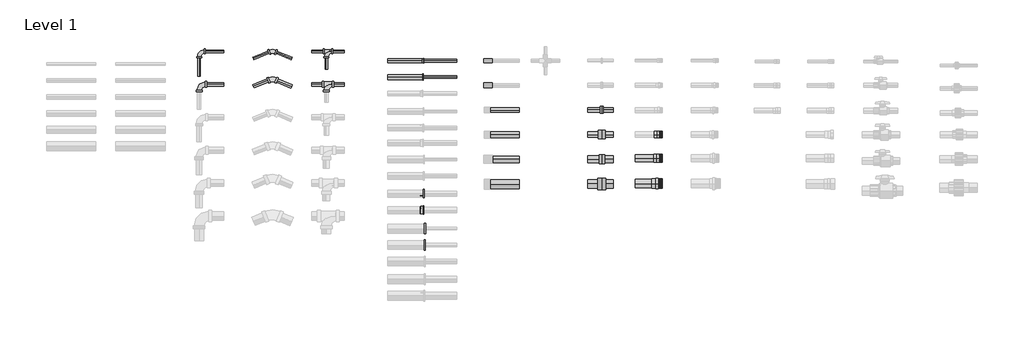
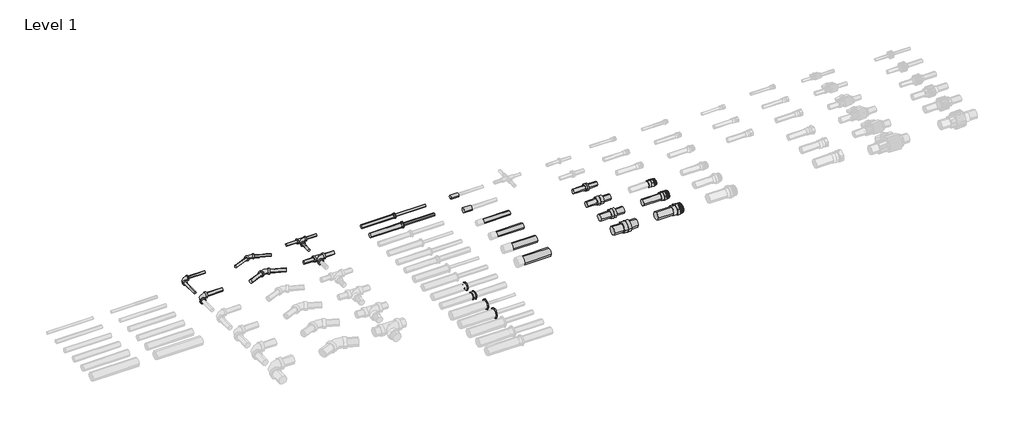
# One storey, part 3 of 5: 30 pipe segments, 18 pipe fittings, 3 valves.
"""IFC4 building model written with IfcOpenShell, lengths in millimetres."""

from ifc_helpers import new_model, si_unit, point, frame, frame_2d, origin, place, context, project, spatial, circle_curve, trimmed, segment, composite_curve, outline, extrude, transform, mapped, element, save
from components import standard_6ea406a4, standard_4a518940, standard_a358d471, standard_514dc241, standard_63efa88c, standard_f1e95f67, standard_e0a6170d, standard_70e3dae1, standard_ea089392, standard_9423981a, standard_cb519760, standard_7ad60289, standard_fa2b7821, standard_9411928c, standard_f4eb1e72, standard_a0c500f7, standard_29754d0d, standard_35c33311, valve_4e4fad23, valve_c2e6266b, valve_f55569fd

model = new_model("IFC4")

# Units and contexts
model_context = context("Model", 3, world=origin())
ifc_project = project(units=[si_unit("LENGTHUNIT", "METRE", prefix="MILLI")], contexts=[model_context])

# Site, building, storey
site = spatial("IfcSite", under=ifc_project)
building = spatial("IfcBuilding", under=site)
storey = spatial("IfcBuildingStorey", under=building, Name="Level 1", Elevation=0.0)

# Pipe fittings
placement = place(None, origin())
standard_shape = standard_6ea406a4(model_context)
element("IfcPipeFitting", 1, ObjectType="Elbow_45_90-Lubrizol-CPVC-FlowGuard_MX : Standard", at=placement, inside=storey, context=model_context, shape_type="MappedRepresentation", body=[
    mapped(standard_shape, transform((-13841.3400203, 7208.9751793, 0.0), x_axis=(-1.0, 0.0, 0.0), y_axis=(0.0, -1.0, 0.0), z_axis=(0.0, 0.0, 1.0))),
])
standard_2_shape = standard_4a518940(model_context)
element("IfcPipeFitting", 2, ObjectType="Elbow_45_90-Lubrizol-CPVC-FlowGuard_MX : Standard", at=placement, inside=storey, context=model_context, shape_type="MappedRepresentation", body=[
    mapped(standard_2_shape, transform((-13841.3400203, 7008.9751793, 0.0), x_axis=(-1.0, 0.0, 0.0), y_axis=(0.0, -1.0, 0.0), z_axis=(0.0, 0.0, 1.0))),
])
standard_3_shape = standard_a358d471(model_context)
element("IfcPipeFitting", 3, ObjectType="Elbow_45_90-Lubrizol-CPVC-FlowGuard_MX : Standard", at=placement, inside=storey, context=model_context, shape_type="MappedRepresentation", body=[
    mapped(standard_3_shape, transform((-13394.7066037, 7214.3191966, 0.0), x_axis=(-0.9205048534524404, 0.39073112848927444, 0.0), y_axis=(-0.3907311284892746, -0.9205048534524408, 0.0), z_axis=(0.0, 0.0, 1.0000000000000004))),
])
standard_4_shape = standard_514dc241(model_context)
element("IfcPipeFitting", 4, ObjectType="Elbow_45_90-Lubrizol-CPVC-FlowGuard_MX : Standard", at=placement, inside=storey, context=model_context, shape_type="MappedRepresentation", body=[
    mapped(standard_4_shape, transform((-13394.7066037, 7044.3191966, 0.0), x_axis=(-0.9205048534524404, 0.39073112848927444, 0.0), y_axis=(-0.3907311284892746, -0.9205048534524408, 0.0), z_axis=(0.0, 0.0, 1.0000000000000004))),
])
standard_5_shape = standard_63efa88c(model_context)
element("IfcPipeFitting", 5, ObjectType="Tee_Lubrizol_CPVC-FlowGuard_MX : Standard", at=placement, inside=storey, context=model_context, shape_type="MappedRepresentation", body=[
    mapped(standard_5_shape, transform((-13067.734073, 7208.9751793, 0.0), x_axis=(-1.0, 0.0, 0.0), y_axis=(0.0, 1.0, 0.0), z_axis=(0.0, 0.0, -1.0))),
])
standard_6_shape = standard_f1e95f67(model_context)
element("IfcPipeFitting", 6, ObjectType="Tee_Lubrizol_CPVC-FlowGuard_MX : Standard", at=placement, inside=storey, context=model_context, shape_type="MappedRepresentation", body=[
    mapped(standard_6_shape, transform((-13067.734073, 7008.9751793, 0.0), x_axis=(-1.0, 0.0, 0.0), y_axis=(0.0, 1.0, 0.0), z_axis=(0.0, 0.0, -1.0))),
])
standard_7_shape = standard_e0a6170d(model_context)
element("IfcPipeFitting", 7, ObjectType="Cap_Lubrizol_CPVC_FlowGuard_MX : Standard", at=placement, inside=storey, context=model_context, shape_type="MappedRepresentation", body=[
    mapped(standard_7_shape, transform((-12060.9977666, 7152.702325, 0.0), x_axis=(-1.0, 0.0, 0.0), y_axis=(0.0, -1.0, 0.0), z_axis=(0.0, 0.0, 1.0))),
])
standard_8_shape = standard_70e3dae1(model_context)
element("IfcPipeFitting", 8, ObjectType="Cap_Lubrizol_CPVC_FlowGuard_MX : Standard", at=placement, inside=storey, context=model_context, shape_type="MappedRepresentation", body=[
    mapped(standard_8_shape, transform((-12060.9977666, 7002.702325, 0.0), x_axis=(-1.0, 0.0, 0.0), y_axis=(0.0, -1.0, 0.0), z_axis=(0.0, 0.0, 1.0))),
])
standard_9_shape = standard_ea089392(model_context)
element("IfcPipeFitting", 9, ObjectType="Reducion Bushing_Lubrizol_CPVC_FlowGuard_MX : Standard", at=placement, inside=storey, context=model_context, shape_type="MappedRepresentation", body=[
    mapped(standard_9_shape, transform((-12486.0964232, 7152.702325, 0.0), x_axis=(1.0, 0.0, 0.0), y_axis=(0.0, 1.0, 0.0), z_axis=(0.0, 0.0, 1.0))),
])
standard_10_shape = standard_9423981a(model_context)
element("IfcPipeFitting", 10, ObjectType="Reducion Bushing_Lubrizol_CPVC_FlowGuard_MX : Standard", at=placement, inside=storey, context=model_context, shape_type="MappedRepresentation", body=[
    mapped(standard_10_shape, transform((-12495.1344232, 7052.702325, 0.0), x_axis=(1.0, 0.0, 0.0), y_axis=(0.0, 1.0, 0.0), z_axis=(0.0, 0.0, 1.0))),
])
standard_11_shape = standard_cb519760(model_context)
element("IfcPipeFitting", 11, ObjectType="Reducion Bushing_Lubrizol_CPVC_FlowGuard_MX : Standard", at=placement, inside=storey, context=model_context, shape_type="MappedRepresentation", body=[
    mapped(standard_11_shape, transform((-12496.6944232, 6344.752325, 0.0), x_axis=(1.0, 0.0, 0.0), y_axis=(0.0, 1.0, 0.0), z_axis=(0.0, 0.0, 1.0))),
])
standard_12_shape = standard_7ad60289(model_context)
element("IfcPipeFitting", 12, ObjectType="Reducion Bushing_Lubrizol_CPVC_FlowGuard_MX : Standard", at=placement, inside=storey, context=model_context, shape_type="MappedRepresentation", body=[
    mapped(standard_12_shape, transform((-12497.6044232, 6244.752325, 0.0), x_axis=(1.0, 0.0, 0.0), y_axis=(0.0, 1.0, 0.0), z_axis=(0.0, 0.0, 1.0))),
])
standard_13_shape = standard_fa2b7821(model_context)
element("IfcPipeFitting", 13, ObjectType="Reducion Bushing_Lubrizol_CPVC_FlowGuard_MX : Standard", at=placement, inside=storey, context=model_context, shape_type="MappedRepresentation", body=[
    mapped(standard_13_shape, transform((-12495.1344232, 6132.702325, 0.0), x_axis=(1.0, 0.0, 0.0), y_axis=(0.0, 1.0, 0.0), z_axis=(0.0, 0.0, 1.0))),
])
standard_14_shape = standard_9411928c(model_context)
element("IfcPipeFitting", 14, ObjectType="Reducion Bushing_Lubrizol_CPVC_FlowGuard_MX : Standard", at=placement, inside=storey, context=model_context, shape_type="MappedRepresentation", body=[
    mapped(standard_14_shape, transform((-12495.9144232, 6032.702325, 0.0), x_axis=(1.0, 0.0, 0.0), y_axis=(0.0, 1.0, 0.0), z_axis=(0.0, 0.0, 1.0))),
])
standard_15_shape = standard_f4eb1e72(model_context)
element("IfcPipeFitting", 15, ObjectType="Cople_Lubrizol_CPVC_FlowGuard_MX : Standard", at=placement, inside=storey, context=model_context, shape_type="MappedRepresentation", body=[
    mapped(standard_15_shape, transform((-11393.7080901, 6703.8269662, 0.0), x_axis=(1.0, 0.0, 0.0), y_axis=(0.0, 1.0, 0.0), z_axis=(0.0, 0.0, 1.0))),
])
standard_16_shape = standard_a0c500f7(model_context)
element("IfcPipeFitting", 16, ObjectType="Cople_Lubrizol_CPVC_FlowGuard_MX : Standard", at=placement, inside=storey, context=model_context, shape_type="MappedRepresentation", body=[
    mapped(standard_16_shape, transform((-11393.7080901, 6853.8269662, 0.0), x_axis=(1.0, 0.0, 0.0), y_axis=(0.0, 1.0, 0.0), z_axis=(0.0, 0.0, 1.0))),
])
standard_17_shape = standard_29754d0d(model_context)
element("IfcPipeFitting", 17, ObjectType="Cople_Lubrizol_CPVC_FlowGuard_MX : Standard", at=placement, inside=storey, context=model_context, shape_type="MappedRepresentation", body=[
    mapped(standard_17_shape, transform((-11393.7080901, 6553.8269662, 0.0), x_axis=(1.0, 0.0, 0.0), y_axis=(0.0, 1.0, 0.0), z_axis=(0.0, 0.0, 1.0))),
])
standard_18_shape = standard_35c33311(model_context)
element("IfcPipeFitting", 18, ObjectType="Cople_Lubrizol_CPVC_FlowGuard_MX : Standard", at=placement, inside=storey, context=model_context, shape_type="MappedRepresentation", body=[
    mapped(standard_18_shape, transform((-11393.7080901, 6403.8269662, 0.0), x_axis=(1.0, 0.0, 0.0), y_axis=(0.0, 1.0, 0.0), z_axis=(0.0, 0.0, 1.0))),
])

# Pipe segments
element("IfcPipeSegment", 19, ObjectType="Lubrizol_Flow Guard SDR 13.5", at=placement, inside=storey, context=model_context, shape_type="SweptSolid", body=[
    extrude(outline(composite_curve([segment(trimmed(circle_curve(frame_2d((7152.702325, 0.0)), 7.95), [point((7144.752325, 0.0))], [point((7152.702325, 7.95))], False, "CARTESIAN"), True, "CONTINUOUS"), segment(trimmed(circle_curve(frame_2d((7152.702325, 0.0)), 7.95), [point((7152.702325, 7.95))], [point((7160.652325, 0.0))], False, "CARTESIAN"), True, "CONTINUOUS"), segment(trimmed(circle_curve(frame_2d((7152.702325, 0.0)), 7.95), [point((7160.652325, 0.0))], [point((7152.702325, -7.95))], False, "CARTESIAN"), True, "CONTINUOUS"), segment(trimmed(circle_curve(frame_2d((7152.702325, 0.0)), 7.95), [point((7152.702325, -7.95))], [point((7144.752325, 0.0))], False, "CARTESIAN"), True, "CONTINUOUS")], self_intersect=False)), frame((-12484.4714232, 0.0, 0.0), z_axis=(1.0, 0.0, 0.0), x_axis=(0.0, 1.0, 0.0)), (0.0, 0.0, 1.0), 209.5730937),
])
element("IfcPipeSegment", 20, ObjectType="Lubrizol_Flow Guard SDR 13.5", at=placement, inside=storey, context=model_context, shape_type="SweptSolid", body=[
    extrude(outline(composite_curve([segment(trimmed(circle_curve(frame_2d((7152.702325, 0.0)), 11.1), [point((7141.602325, 0.0))], [point((7152.702325, 11.1))], False, "CARTESIAN"), True, "CONTINUOUS"), segment(trimmed(circle_curve(frame_2d((7152.702325, 0.0)), 11.1), [point((7152.702325, 11.1))], [point((7163.802325, 0.0))], False, "CARTESIAN"), True, "CONTINUOUS"), segment(trimmed(circle_curve(frame_2d((7152.702325, 0.0)), 11.1), [point((7163.802325, 0.0))], [point((7152.702325, -11.1))], False, "CARTESIAN"), True, "CONTINUOUS"), segment(trimmed(circle_curve(frame_2d((7152.702325, 0.0)), 11.1), [point((7152.702325, -11.1))], [point((7141.602325, 0.0))], False, "CARTESIAN"), True, "CONTINUOUS")], self_intersect=False)), frame((-12695.1344232, 0.0, 0.0), z_axis=(1.0, 0.0, 0.0), x_axis=(0.0, 1.0, 0.0)), (0.0, 0.0, 1.0), 218.076),
])
element("IfcPipeSegment", 21, ObjectType="Lubrizol_Flow Guard SDR 13.5", at=placement, inside=storey, context=model_context, shape_type="SweptSolid", body=[
    extrude(outline(composite_curve([segment(trimmed(circle_curve(frame_2d((7052.702325, 0.0)), 7.95), [point((7044.752325, 0.0))], [point((7052.702325, 7.95))], False, "CARTESIAN"), True, "CONTINUOUS"), segment(trimmed(circle_curve(frame_2d((7052.702325, 0.0)), 7.95), [point((7052.702325, 7.95))], [point((7060.652325, 0.0))], False, "CARTESIAN"), True, "CONTINUOUS"), segment(trimmed(circle_curve(frame_2d((7052.702325, 0.0)), 7.95), [point((7060.652325, 0.0))], [point((7052.702325, -7.95))], False, "CARTESIAN"), True, "CONTINUOUS"), segment(trimmed(circle_curve(frame_2d((7052.702325, 0.0)), 7.95), [point((7052.702325, -7.95))], [point((7044.752325, 0.0))], False, "CARTESIAN"), True, "CONTINUOUS")], self_intersect=False)), frame((-12493.5094232, 0.0, 0.0), z_axis=(1.0, 0.0, 0.0), x_axis=(0.0, 1.0, 0.0)), (0.0, 0.0, 1.0), 218.6110937),
])
element("IfcPipeSegment", 22, ObjectType="Lubrizol_Flow Guard SDR 13.5", at=placement, inside=storey, context=model_context, shape_type="SweptSolid", body=[
    extrude(outline(composite_curve([segment(trimmed(circle_curve(frame_2d((7052.702325, 0.0)), 14.3), [point((7038.402325, 0.0))], [point((7052.702325, 14.3))], False, "CARTESIAN"), True, "CONTINUOUS"), segment(trimmed(circle_curve(frame_2d((7052.702325, 0.0)), 14.3), [point((7052.702325, 14.3))], [point((7067.002325, 0.0))], False, "CARTESIAN"), True, "CONTINUOUS"), segment(trimmed(circle_curve(frame_2d((7052.702325, 0.0)), 14.3), [point((7067.002325, 0.0))], [point((7052.702325, -14.3))], False, "CARTESIAN"), True, "CONTINUOUS"), segment(trimmed(circle_curve(frame_2d((7052.702325, 0.0)), 14.3), [point((7052.702325, -14.3))], [point((7038.402325, 0.0))], False, "CARTESIAN"), True, "CONTINUOUS")], self_intersect=False)), frame((-12695.1344232, 0.0, 0.0), z_axis=(1.0, 0.0, 0.0), x_axis=(0.0, 1.0, 0.0)), (0.0, 0.0, 1.0), 211.888),
])
element("IfcPipeSegment", 23, ObjectType="Lubrizol_Flow Guard SDR 13.5", at=placement, inside=storey, context=model_context, shape_type="SweptSolid", body=[
    extrude(outline(composite_curve([segment(trimmed(circle_curve(frame_2d((0.0, -13841.3400203)), 7.95), [point((0.0, -13833.3900203))], [point((7.95, -13841.3400203))], False, "CARTESIAN"), True, "CONTINUOUS"), segment(trimmed(circle_curve(frame_2d((0.0, -13841.3400203)), 7.95), [point((7.95, -13841.3400203))], [point((0.0, -13849.2900203))], False, "CARTESIAN"), True, "CONTINUOUS"), segment(trimmed(circle_curve(frame_2d((0.0, -13841.3400203)), 7.95), [point((0.0, -13849.2900203))], [point((-7.95, -13841.3400203))], False, "CARTESIAN"), True, "CONTINUOUS"), segment(trimmed(circle_curve(frame_2d((0.0, -13841.3400203)), 7.95), [point((-7.95, -13841.3400203))], [point((0.0, -13833.3900203))], False, "CARTESIAN"), True, "CONTINUOUS")], self_intersect=False)), frame((0.0, 7058.9751793, 0.0), z_axis=(0.0, 1.0, 0.0), x_axis=(0.0, 0.0, 1.0)), (0.0, 0.0, 1.0), 111.3059375),
])
element("IfcPipeSegment", 24, ObjectType="Lubrizol_Flow Guard SDR 13.5", at=placement, inside=storey, context=model_context, shape_type="SweptSolid", body=[
    extrude(outline(composite_curve([segment(trimmed(circle_curve(frame_2d((7208.9751793, 0.0)), 7.95), [point((7201.0251793, 0.0))], [point((7208.9751793, 7.95))], False, "CARTESIAN"), True, "CONTINUOUS"), segment(trimmed(circle_curve(frame_2d((7208.9751793, 0.0)), 7.95), [point((7208.9751793, 7.95))], [point((7216.9251793, 0.0))], False, "CARTESIAN"), True, "CONTINUOUS"), segment(trimmed(circle_curve(frame_2d((7208.9751793, 0.0)), 7.95), [point((7216.9251793, 0.0))], [point((7208.9751793, -7.95))], False, "CARTESIAN"), True, "CONTINUOUS"), segment(trimmed(circle_curve(frame_2d((7208.9751793, 0.0)), 7.95), [point((7208.9751793, -7.95))], [point((7201.0251793, 0.0))], False, "CARTESIAN"), True, "CONTINUOUS")], self_intersect=False)), frame((-13802.6459578, 0.0, 0.0), z_axis=(1.0, 0.0, 0.0), x_axis=(0.0, 1.0, 0.0)), (0.0, 0.0, 1.0), 111.3059375),
])
element("IfcPipeSegment", 25, ObjectType="Lubrizol_Flow Guard SDR 13.5", at=placement, inside=storey, context=model_context, shape_type="SweptSolid", body=[
    extrude(outline(composite_curve([segment(trimmed(circle_curve(frame_2d((7008.9751793, 0.0)), 11.1), [point((6997.8751793, 0.0))], [point((7008.9751793, 11.1))], False, "CARTESIAN"), True, "CONTINUOUS"), segment(trimmed(circle_curve(frame_2d((7008.9751793, 0.0)), 11.1), [point((7008.9751793, 11.1))], [point((7020.0751793, 0.0))], False, "CARTESIAN"), True, "CONTINUOUS"), segment(trimmed(circle_curve(frame_2d((7008.9751793, 0.0)), 11.1), [point((7020.0751793, 0.0))], [point((7008.9751793, -11.1))], False, "CARTESIAN"), True, "CONTINUOUS"), segment(trimmed(circle_curve(frame_2d((7008.9751793, 0.0)), 11.1), [point((7008.9751793, -11.1))], [point((6997.8751793, 0.0))], False, "CARTESIAN"), True, "CONTINUOUS")], self_intersect=False)), frame((-13795.6859578, 0.0, 0.0), z_axis=(1.0, 0.0, 0.0), x_axis=(0.0, 1.0, 0.0)), (0.0, 0.0, 1.0), 104.3459375),
])
element("IfcPipeSegment", 26, ObjectType="Lubrizol_Flow Guard SDR 13.5", at=placement, inside=storey, context=model_context, shape_type="SweptSolid", body=[
    extrude(outline(composite_curve([segment(trimmed(circle_curve(frame_2d((0.0, 7.95)), 7.95), [point((7.9500001, 7.95))], [point((0.0, 0.0))], False, "CARTESIAN"), True, "CONTINUOUS"), segment(trimmed(circle_curve(frame_2d((0.0, 7.95)), 7.95), [point((0.0, 0.0))], [point((-7.95, 7.95))], False, "CARTESIAN"), True, "CONTINUOUS"), segment(trimmed(circle_curve(frame_2d((0.0, 7.95)), 7.95), [point((-7.95, 7.95))], [point((0.0, 15.9))], False, "CARTESIAN"), True, "CONTINUOUS"), segment(trimmed(circle_curve(frame_2d((0.0, 7.95)), 7.95), [point((0.0, 15.9))], [point((7.9500001, 7.95))], False, "CARTESIAN"), True, "CONTINUOUS")], self_intersect=False)), frame((-13511.2092833, 7167.2490587, 7.95), z_axis=(0.9271838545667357, 0.37460659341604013, 0.0), x_axis=(0.37460659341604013, -0.9271838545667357, 0.0)), (0.0, 0.0, 1.0), 100.0),
])
element("IfcPipeSegment", 27, ObjectType="Lubrizol_Flow Guard SDR 13.5", at=placement, inside=storey, context=model_context, shape_type="SweptSolid", body=[
    extrude(outline(composite_curve([segment(trimmed(circle_curve(frame_2d((0.0, -7.95)), 7.95), [point((-7.95, -7.95))], [point((0.0, 0.0))], False, "CARTESIAN"), True, "CONTINUOUS"), segment(trimmed(circle_curve(frame_2d((0.0, -7.95)), 7.95), [point((0.0, 0.0))], [point((7.9499999, -7.95))], False, "CARTESIAN"), True, "CONTINUOUS"), segment(trimmed(circle_curve(frame_2d((0.0, -7.95)), 7.95), [point((7.9499999, -7.95))], [point((0.0, -15.9))], False, "CARTESIAN"), True, "CONTINUOUS"), segment(trimmed(circle_curve(frame_2d((0.0, -7.95)), 7.95), [point((0.0, -15.9))], [point((-7.95, -7.95))], False, "CARTESIAN"), True, "CONTINUOUS")], self_intersect=False)), frame((-13279.0431553, 7165.2229756, -7.95), z_axis=(-0.9205048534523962, 0.390731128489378, 0.0), x_axis=(0.390731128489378, 0.9205048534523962, 0.0)), (0.0, 0.0, 1.0), 100.0),
])
element("IfcPipeSegment", 28, ObjectType="Lubrizol_Flow Guard SDR 13.5", at=placement, inside=storey, context=model_context, shape_type="SweptSolid", body=[
    extrude(outline(composite_curve([segment(trimmed(circle_curve(frame_2d((0.0, 11.1)), 11.1), [point((11.1, 11.1))], [point((0.0, 0.0))], False, "CARTESIAN"), True, "CONTINUOUS"), segment(trimmed(circle_curve(frame_2d((0.0, 11.1)), 11.1), [point((0.0, 0.0))], [point((-11.0999999, 11.1))], False, "CARTESIAN"), True, "CONTINUOUS"), segment(trimmed(circle_curve(frame_2d((0.0, 11.1)), 11.1), [point((-11.0999999, 11.1))], [point((0.0, 22.2))], False, "CARTESIAN"), True, "CONTINUOUS"), segment(trimmed(circle_curve(frame_2d((0.0, 11.1)), 11.1), [point((0.0, 22.2))], [point((11.1, 11.1))], False, "CARTESIAN"), True, "CONTINUOUS")], self_intersect=False)), frame((-13511.2092833, 6997.2490587, 11.1), z_axis=(0.9271838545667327, 0.37460659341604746, 0.0), x_axis=(0.37460659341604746, -0.9271838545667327, 0.0)), (0.0, 0.0, 1.0), 94.48),
])
element("IfcPipeSegment", 29, ObjectType="Lubrizol_Flow Guard SDR 13.5", at=placement, inside=storey, context=model_context, shape_type="SweptSolid", body=[
    extrude(outline(composite_curve([segment(trimmed(circle_curve(frame_2d((0.0, -11.1)), 11.1), [point((-11.1, -11.1))], [point((0.0, 0.0))], False, "CARTESIAN"), True, "CONTINUOUS"), segment(trimmed(circle_curve(frame_2d((0.0, -11.1)), 11.1), [point((0.0, 0.0))], [point((11.0999999, -11.1))], False, "CARTESIAN"), True, "CONTINUOUS"), segment(trimmed(circle_curve(frame_2d((0.0, -11.1)), 11.1), [point((11.0999999, -11.1))], [point((0.0, -22.2))], False, "CARTESIAN"), True, "CONTINUOUS"), segment(trimmed(circle_curve(frame_2d((0.0, -11.1)), 11.1), [point((0.0, -22.2))], [point((-11.1, -11.1))], False, "CARTESIAN"), True, "CONTINUOUS")], self_intersect=False)), frame((-13279.0431553, 6995.2229756, -11.1), z_axis=(-0.9205048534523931, 0.3907311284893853, 0.0), x_axis=(0.3907311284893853, 0.9205048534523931, 0.0)), (0.0, 0.0, 1.0), 94.48),
])
element("IfcPipeSegment", 30, ObjectType="Lubrizol_Flow Guard SDR 13.5", at=placement, inside=storey, context=model_context, shape_type="SweptSolid", body=[
    extrude(outline(composite_curve([segment(trimmed(circle_curve(frame_2d((0.0, -13067.734073)), 7.95), [point((0.0, -13075.684073))], [point((-7.95, -13067.734073))], False, "CARTESIAN"), True, "CONTINUOUS"), segment(trimmed(circle_curve(frame_2d((0.0, -13067.734073)), 7.95), [point((-7.95, -13067.734073))], [point((0.0, -13059.784073))], False, "CARTESIAN"), True, "CONTINUOUS"), segment(trimmed(circle_curve(frame_2d((0.0, -13067.734073)), 7.95), [point((0.0, -13059.784073))], [point((7.95, -13067.734073))], False, "CARTESIAN"), True, "CONTINUOUS"), segment(trimmed(circle_curve(frame_2d((0.0, -13067.734073)), 7.95), [point((7.95, -13067.734073))], [point((0.0, -13075.684073))], False, "CARTESIAN"), True, "CONTINUOUS")], self_intersect=False)), frame((0.0, 7100.2811168, 0.0), z_axis=(0.0, 1.0, 0.0), x_axis=(0.0, 0.0, 1.0)), (0.0, 0.0, 1.0), 70.0),
])
element("IfcPipeSegment", 31, ObjectType="Lubrizol_Flow Guard SDR 13.5", at=placement, inside=storey, context=model_context, shape_type="SweptSolid", body=[
    extrude(outline(composite_curve([segment(trimmed(circle_curve(frame_2d((7208.9751793, 0.0)), 7.95), [point((7201.0251793, 0.0))], [point((7208.9751793, 7.95))], False, "CARTESIAN"), True, "CONTINUOUS"), segment(trimmed(circle_curve(frame_2d((7208.9751793, 0.0)), 7.95), [point((7208.9751793, 7.95))], [point((7216.9251793, 0.0))], False, "CARTESIAN"), True, "CONTINUOUS"), segment(trimmed(circle_curve(frame_2d((7208.9751793, 0.0)), 7.95), [point((7216.9251793, 0.0))], [point((7208.9751793, -7.95))], False, "CARTESIAN"), True, "CONTINUOUS"), segment(trimmed(circle_curve(frame_2d((7208.9751793, 0.0)), 7.95), [point((7208.9751793, -7.95))], [point((7201.0251793, 0.0))], False, "CARTESIAN"), True, "CONTINUOUS")], self_intersect=False)), frame((-13029.0400105, 0.0, 0.0), z_axis=(1.0, 0.0, 0.0), x_axis=(0.0, 1.0, 0.0)), (0.0, 0.0, 1.0), 70.0),
])
element("IfcPipeSegment", 32, ObjectType="Lubrizol_Flow Guard SDR 13.5", at=placement, inside=storey, context=model_context, shape_type="SweptSolid", body=[
    extrude(outline(composite_curve([segment(trimmed(circle_curve(frame_2d((7208.9751793, 0.0)), 7.95), [point((7201.0251793, 0.0))], [point((7208.9751793, 7.95))], False, "CARTESIAN"), True, "CONTINUOUS"), segment(trimmed(circle_curve(frame_2d((7208.9751793, 0.0)), 7.95), [point((7208.9751793, 7.95))], [point((7216.9251793, 0.0))], False, "CARTESIAN"), True, "CONTINUOUS"), segment(trimmed(circle_curve(frame_2d((7208.9751793, 0.0)), 7.95), [point((7216.9251793, 0.0))], [point((7208.9751793, -7.95))], False, "CARTESIAN"), True, "CONTINUOUS"), segment(trimmed(circle_curve(frame_2d((7208.9751793, 0.0)), 7.95), [point((7208.9751793, -7.95))], [point((7201.0251793, 0.0))], False, "CARTESIAN"), True, "CONTINUOUS")], self_intersect=False)), frame((-13155.749698, 0.0, 0.0), z_axis=(1.0, 0.0, 0.0), x_axis=(0.0, 1.0, 0.0)), (0.0, 0.0, 1.0), 70.0),
])
element("IfcPipeSegment", 33, ObjectType="Lubrizol_Flow Guard SDR 13.5", at=placement, inside=storey, context=model_context, shape_type="SweptSolid", body=[
    extrude(outline(composite_curve([segment(trimmed(circle_curve(frame_2d((7008.9751793, 0.0)), 11.1), [point((6997.8751793, 0.0))], [point((7008.9751793, 11.1))], False, "CARTESIAN"), True, "CONTINUOUS"), segment(trimmed(circle_curve(frame_2d((7008.9751793, 0.0)), 11.1), [point((7008.9751793, 11.1))], [point((7020.0751793, 0.0))], False, "CARTESIAN"), True, "CONTINUOUS"), segment(trimmed(circle_curve(frame_2d((7008.9751793, 0.0)), 11.1), [point((7020.0751793, 0.0))], [point((7008.9751793, -11.1))], False, "CARTESIAN"), True, "CONTINUOUS"), segment(trimmed(circle_curve(frame_2d((7008.9751793, 0.0)), 11.1), [point((7008.9751793, -11.1))], [point((6997.8751793, 0.0))], False, "CARTESIAN"), True, "CONTINUOUS")], self_intersect=False)), frame((-13022.0800105, 0.0, 0.0), z_axis=(1.0, 0.0, 0.0), x_axis=(0.0, 1.0, 0.0)), (0.0, 0.0, 1.0), 63.04),
])
element("IfcPipeSegment", 34, ObjectType="Lubrizol_Flow Guard SDR 13.5", at=placement, inside=storey, context=model_context, shape_type="SweptSolid", body=[
    extrude(outline(composite_curve([segment(trimmed(circle_curve(frame_2d((7008.9751793, 0.0)), 11.1), [point((6997.8751793, 0.0))], [point((7008.9751793, 11.1))], False, "CARTESIAN"), True, "CONTINUOUS"), segment(trimmed(circle_curve(frame_2d((7008.9751793, 0.0)), 11.1), [point((7008.9751793, 11.1))], [point((7020.0751793, 0.0))], False, "CARTESIAN"), True, "CONTINUOUS"), segment(trimmed(circle_curve(frame_2d((7008.9751793, 0.0)), 11.1), [point((7020.0751793, 0.0))], [point((7008.9751793, -11.1))], False, "CARTESIAN"), True, "CONTINUOUS"), segment(trimmed(circle_curve(frame_2d((7008.9751793, 0.0)), 11.1), [point((7008.9751793, -11.1))], [point((6997.8751793, 0.0))], False, "CARTESIAN"), True, "CONTINUOUS")], self_intersect=False)), frame((-13155.749698, 0.0, 0.0), z_axis=(1.0, 0.0, 0.0), x_axis=(0.0, 1.0, 0.0)), (0.0, 0.0, 1.0), 63.7),
])
element("IfcPipeSegment", 35, ObjectType="Lubrizol_Flow Guard SDR 13.5", at=placement, inside=storey, context=model_context, shape_type="SweptSolid", body=[
    extrude(outline(composite_curve([segment(trimmed(circle_curve(frame_2d((6852.702325, 0.0)), 14.3), [point((6838.402325, 0.0))], [point((6852.702325, 14.3))], False, "CARTESIAN"), True, "CONTINUOUS"), segment(trimmed(circle_curve(frame_2d((6852.702325, 0.0)), 14.3), [point((6852.702325, 14.3))], [point((6867.002325, 0.0))], False, "CARTESIAN"), True, "CONTINUOUS"), segment(trimmed(circle_curve(frame_2d((6852.702325, 0.0)), 14.3), [point((6867.002325, 0.0))], [point((6852.702325, -14.3))], False, "CARTESIAN"), True, "CONTINUOUS"), segment(trimmed(circle_curve(frame_2d((6852.702325, 0.0)), 14.3), [point((6852.702325, -14.3))], [point((6838.402325, 0.0))], False, "CARTESIAN"), True, "CONTINUOUS")], self_intersect=False)), frame((-12070.9977666, 0.0, 0.0), z_axis=(1.0, 0.0, 0.0), x_axis=(0.0, 1.0, 0.0)), (0.0, 0.0, 1.0), 175.0),
])
element("IfcPipeSegment", 36, ObjectType="Lubrizol_Flow Guard SDR 13.5", at=placement, inside=storey, context=model_context, shape_type="SweptSolid", body=[
    extrude(outline(composite_curve([segment(trimmed(circle_curve(frame_2d((6702.702325, 0.0)), 17.45), [point((6685.252325, 0.0))], [point((6702.702325, 17.45))], False, "CARTESIAN"), True, "CONTINUOUS"), segment(trimmed(circle_curve(frame_2d((6702.702325, 0.0)), 17.45), [point((6702.702325, 17.45))], [point((6720.152325, 0.0))], False, "CARTESIAN"), True, "CONTINUOUS"), segment(trimmed(circle_curve(frame_2d((6702.702325, 0.0)), 17.45), [point((6720.152325, 0.0))], [point((6702.702325, -17.45))], False, "CARTESIAN"), True, "CONTINUOUS"), segment(trimmed(circle_curve(frame_2d((6702.702325, 0.0)), 17.45), [point((6702.702325, -17.45))], [point((6685.252325, 0.0))], False, "CARTESIAN"), True, "CONTINUOUS")], self_intersect=False)), frame((-12070.9977666, 0.0, 0.0), z_axis=(1.0, 0.0, 0.0), x_axis=(0.0, 1.0, 0.0)), (0.0, 0.0, 1.0), 175.0),
])
element("IfcPipeSegment", 37, ObjectType="Lubrizol_Flow Guard SDR 13.5", at=placement, inside=storey, context=model_context, shape_type="SweptSolid", body=[
    extrude(outline(composite_curve([segment(trimmed(circle_curve(frame_2d((6552.702325, 0.0)), 20.65), [point((6532.052325, 0.0))], [point((6552.702325, 20.65))], False, "CARTESIAN"), True, "CONTINUOUS"), segment(trimmed(circle_curve(frame_2d((6552.702325, 0.0)), 20.65), [point((6552.702325, 20.65))], [point((6573.352325, 0.0))], False, "CARTESIAN"), True, "CONTINUOUS"), segment(trimmed(circle_curve(frame_2d((6552.702325, 0.0)), 20.65), [point((6573.352325, 0.0))], [point((6552.702325, -20.65))], False, "CARTESIAN"), True, "CONTINUOUS"), segment(trimmed(circle_curve(frame_2d((6552.702325, 0.0)), 20.65), [point((6552.702325, -20.65))], [point((6532.052325, 0.0))], False, "CARTESIAN"), True, "CONTINUOUS")], self_intersect=False)), frame((-12055.9977666, 0.0, 0.0), z_axis=(1.0, 0.0, 0.0), x_axis=(0.0, 1.0, 0.0)), (0.0, 0.0, 1.0), 160.0),
])
element("IfcPipeSegment", 38, ObjectType="Lubrizol_Flow Guard SDR 13.5", at=placement, inside=storey, context=model_context, shape_type="SweptSolid", body=[
    extrude(outline(composite_curve([segment(trimmed(circle_curve(frame_2d((6402.702325, 0.0)), 27.0), [point((6375.702325, 0.0))], [point((6402.702325, 27.0))], False, "CARTESIAN"), True, "CONTINUOUS"), segment(trimmed(circle_curve(frame_2d((6402.702325, 0.0)), 27.0), [point((6402.702325, 27.0))], [point((6429.702325, 0.0))], False, "CARTESIAN"), True, "CONTINUOUS"), segment(trimmed(circle_curve(frame_2d((6402.702325, 0.0)), 27.0), [point((6429.702325, 0.0))], [point((6402.702325, -27.0))], False, "CARTESIAN"), True, "CONTINUOUS"), segment(trimmed(circle_curve(frame_2d((6402.702325, 0.0)), 27.0), [point((6402.702325, -27.0))], [point((6375.702325, 0.0))], False, "CARTESIAN"), True, "CONTINUOUS")], self_intersect=False)), frame((-12070.9977666, 0.0, 0.0), z_axis=(1.0, 0.0, 0.0), x_axis=(0.0, 1.0, 0.0)), (0.0, 0.0, 1.0), 175.0),
])
element("IfcPipeSegment", 39, ObjectType="Lubrizol_Flow Guard SDR 13.5", at=placement, inside=storey, context=model_context, shape_type="SweptSolid", body=[
    extrude(outline(composite_curve([segment(trimmed(circle_curve(frame_2d((6853.8269662, 0.0)), 14.3), [point((6839.5269662, 0.0))], [point((6853.8269662, 14.3))], False, "CARTESIAN"), True, "CONTINUOUS"), segment(trimmed(circle_curve(frame_2d((6853.8269662, 0.0)), 14.3), [point((6853.8269662, 14.3))], [point((6868.1269662, 0.0))], False, "CARTESIAN"), True, "CONTINUOUS"), segment(trimmed(circle_curve(frame_2d((6853.8269662, 0.0)), 14.3), [point((6868.1269662, 0.0))], [point((6853.8269662, -14.3))], False, "CARTESIAN"), True, "CONTINUOUS"), segment(trimmed(circle_curve(frame_2d((6853.8269662, 0.0)), 14.3), [point((6853.8269662, -14.3))], [point((6839.5269662, 0.0))], False, "CARTESIAN"), True, "CONTINUOUS")], self_intersect=False)), frame((-11384.2522307, 0.0, 0.0), z_axis=(1.0, 0.0, 0.0), x_axis=(0.0, 1.0, 0.0)), (0.0, 0.0, 1.0), 61.1816406),
])
element("IfcPipeSegment", 40, ObjectType="Lubrizol_Flow Guard SDR 13.5", at=placement, inside=storey, context=model_context, shape_type="SweptSolid", body=[
    extrude(outline(composite_curve([segment(trimmed(circle_curve(frame_2d((6853.8269662, 0.0)), 14.3), [point((6868.1269662, 0.0))], [point((6853.8269662, -14.3))], False, "CARTESIAN"), True, "CONTINUOUS"), segment(trimmed(circle_curve(frame_2d((6853.8269662, 0.0)), 14.3), [point((6853.8269662, -14.3))], [point((6839.5269662, 0.0))], False, "CARTESIAN"), True, "CONTINUOUS"), segment(trimmed(circle_curve(frame_2d((6853.8269662, 0.0)), 14.3), [point((6839.5269662, 0.0))], [point((6853.8269662, 14.3))], False, "CARTESIAN"), True, "CONTINUOUS"), segment(trimmed(circle_curve(frame_2d((6853.8269662, 0.0)), 14.3), [point((6853.8269662, 14.3))], [point((6868.1269662, 0.0))], False, "CARTESIAN"), True, "CONTINUOUS")], self_intersect=False)), frame((-11478.0705901, 0.0, 0.0), z_axis=(1.0, 0.0, 0.0), x_axis=(0.0, 1.0, 0.0)), (0.0, 0.0, 1.0), 74.9066406),
])
element("IfcPipeSegment", 41, ObjectType="Lubrizol_Flow Guard SDR 13.5", at=placement, inside=storey, context=model_context, shape_type="SweptSolid", body=[
    extrude(outline(composite_curve([segment(trimmed(circle_curve(frame_2d((6703.8269662, 0.0)), 17.45), [point((6686.3769662, 0.0))], [point((6703.8269662, 17.45))], False, "CARTESIAN"), True, "CONTINUOUS"), segment(trimmed(circle_curve(frame_2d((6703.8269662, 0.0)), 17.45), [point((6703.8269662, 17.45))], [point((6721.2769662, 0.0))], False, "CARTESIAN"), True, "CONTINUOUS"), segment(trimmed(circle_curve(frame_2d((6703.8269662, 0.0)), 17.45), [point((6721.2769662, 0.0))], [point((6703.8269662, -17.45))], False, "CARTESIAN"), True, "CONTINUOUS"), segment(trimmed(circle_curve(frame_2d((6703.8269662, 0.0)), 17.45), [point((6703.8269662, -17.45))], [point((6686.3769662, 0.0))], False, "CARTESIAN"), True, "CONTINUOUS")], self_intersect=False)), frame((-11373.0705901, 0.0, 0.0), z_axis=(1.0, 0.0, 0.0), x_axis=(0.0, 1.0, 0.0)), (0.0, 0.0, 1.0), 50.0),
])
element("IfcPipeSegment", 42, ObjectType="Lubrizol_Flow Guard SDR 13.5", at=placement, inside=storey, context=model_context, shape_type="SweptSolid", body=[
    extrude(outline(composite_curve([segment(trimmed(circle_curve(frame_2d((6703.8269662, 0.0)), 17.45), [point((6721.2769662, 0.0))], [point((6703.8269662, -17.45))], False, "CARTESIAN"), True, "CONTINUOUS"), segment(trimmed(circle_curve(frame_2d((6703.8269662, 0.0)), 17.45), [point((6703.8269662, -17.45))], [point((6686.3769662, 0.0))], False, "CARTESIAN"), True, "CONTINUOUS"), segment(trimmed(circle_curve(frame_2d((6703.8269662, 0.0)), 17.45), [point((6686.3769662, 0.0))], [point((6703.8269662, 17.45))], False, "CARTESIAN"), True, "CONTINUOUS"), segment(trimmed(circle_curve(frame_2d((6703.8269662, 0.0)), 17.45), [point((6703.8269662, 17.45))], [point((6721.2769662, 0.0))], False, "CARTESIAN"), True, "CONTINUOUS")], self_intersect=False)), frame((-11478.0705901, 0.0, 0.0), z_axis=(1.0, 0.0, 0.0), x_axis=(0.0, 1.0, 0.0)), (0.0, 0.0, 1.0), 63.725),
])
element("IfcPipeSegment", 43, ObjectType="Lubrizol_Flow Guard SDR 13.5", at=placement, inside=storey, context=model_context, shape_type="SweptSolid", body=[
    extrude(outline(composite_curve([segment(trimmed(circle_curve(frame_2d((6553.8269662, 0.0)), 20.65), [point((6533.1769662, 0.0))], [point((6553.8269662, 20.65))], False, "CARTESIAN"), True, "CONTINUOUS"), segment(trimmed(circle_curve(frame_2d((6553.8269662, 0.0)), 20.65), [point((6553.8269662, 20.65))], [point((6574.4769662, 0.0))], False, "CARTESIAN"), True, "CONTINUOUS"), segment(trimmed(circle_curve(frame_2d((6553.8269662, 0.0)), 20.65), [point((6574.4769662, 0.0))], [point((6553.8269662, -20.65))], False, "CARTESIAN"), True, "CONTINUOUS"), segment(trimmed(circle_curve(frame_2d((6553.8269662, 0.0)), 20.65), [point((6553.8269662, -20.65))], [point((6533.1769662, 0.0))], False, "CARTESIAN"), True, "CONTINUOUS")], self_intersect=False)), frame((-11377.2972307, 0.0, 0.0), z_axis=(1.0, 0.0, 0.0), x_axis=(0.0, 1.0, 0.0)), (0.0, 0.0, 1.0), 54.2266406),
])
element("IfcPipeSegment", 44, ObjectType="Lubrizol_Flow Guard SDR 13.5", at=placement, inside=storey, context=model_context, shape_type="SweptSolid", body=[
    extrude(outline(composite_curve([segment(trimmed(circle_curve(frame_2d((6553.8269662, 0.0)), 20.65), [point((6574.4769662, 0.0))], [point((6553.8269662, -20.65))], False, "CARTESIAN"), True, "CONTINUOUS"), segment(trimmed(circle_curve(frame_2d((6553.8269662, 0.0)), 20.65), [point((6553.8269662, -20.65))], [point((6533.1769662, 0.0))], False, "CARTESIAN"), True, "CONTINUOUS"), segment(trimmed(circle_curve(frame_2d((6553.8269662, 0.0)), 20.65), [point((6533.1769662, 0.0))], [point((6553.8269662, 20.65))], False, "CARTESIAN"), True, "CONTINUOUS"), segment(trimmed(circle_curve(frame_2d((6553.8269662, 0.0)), 20.65), [point((6553.8269662, 20.65))], [point((6574.4769662, 0.0))], False, "CARTESIAN"), True, "CONTINUOUS")], self_intersect=False)), frame((-11478.0705901, 0.0, 0.0), z_axis=(1.0, 0.0, 0.0), x_axis=(0.0, 1.0, 0.0)), (0.0, 0.0, 1.0), 67.9516406),
])
element("IfcPipeSegment", 45, ObjectType="Lubrizol_Flow Guard SDR 13.5", at=placement, inside=storey, context=model_context, shape_type="SweptSolid", body=[
    extrude(outline(composite_curve([segment(trimmed(circle_curve(frame_2d((6403.8269662, 0.0)), 27.0), [point((6376.8269662, 0.0))], [point((6403.8269662, 27.0))], False, "CARTESIAN"), True, "CONTINUOUS"), segment(trimmed(circle_curve(frame_2d((6403.8269662, 0.0)), 27.0), [point((6403.8269662, 27.0))], [point((6430.8269662, 0.0))], False, "CARTESIAN"), True, "CONTINUOUS"), segment(trimmed(circle_curve(frame_2d((6403.8269662, 0.0)), 27.0), [point((6430.8269662, 0.0))], [point((6403.8269662, -27.0))], False, "CARTESIAN"), True, "CONTINUOUS"), segment(trimmed(circle_curve(frame_2d((6403.8269662, 0.0)), 27.0), [point((6403.8269662, -27.0))], [point((6376.8269662, 0.0))], False, "CARTESIAN"), True, "CONTINUOUS")], self_intersect=False)), frame((-11369.8955901, 0.0, 0.0), z_axis=(1.0, 0.0, 0.0), x_axis=(0.0, 1.0, 0.0)), (0.0, 0.0, 1.0), 46.825),
])
element("IfcPipeSegment", 46, ObjectType="Lubrizol_Flow Guard SDR 13.5", at=placement, inside=storey, context=model_context, shape_type="SweptSolid", body=[
    extrude(outline(composite_curve([segment(trimmed(circle_curve(frame_2d((6403.8269662, 0.0)), 27.0), [point((6430.8269662, 0.0))], [point((6403.8269662, -27.0))], False, "CARTESIAN"), True, "CONTINUOUS"), segment(trimmed(circle_curve(frame_2d((6403.8269662, 0.0)), 27.0), [point((6403.8269662, -27.0))], [point((6376.8269662, 0.0))], False, "CARTESIAN"), True, "CONTINUOUS"), segment(trimmed(circle_curve(frame_2d((6403.8269662, 0.0)), 27.0), [point((6376.8269662, 0.0))], [point((6403.8269662, 27.0))], False, "CARTESIAN"), True, "CONTINUOUS"), segment(trimmed(circle_curve(frame_2d((6403.8269662, 0.0)), 27.0), [point((6403.8269662, 27.0))], [point((6430.8269662, 0.0))], False, "CARTESIAN"), True, "CONTINUOUS")], self_intersect=False)), frame((-11478.0705901, 0.0, 0.0), z_axis=(1.0, 0.0, 0.0), x_axis=(0.0, 1.0, 0.0)), (0.0, 0.0, 1.0), 60.55),
])
element("IfcPipeSegment", 47, ObjectType="Lubrizol_Flow Guard SDR 13.5", at=placement, inside=storey, context=model_context, shape_type="SweptSolid", body=[
    extrude(outline(composite_curve([segment(trimmed(circle_curve(frame_2d((6406.4620668, 0.0)), 27.0), [point((6433.4620668, 0.0))], [point((6406.4620668, -27.0))], False, "CARTESIAN"), True, "CONTINUOUS"), segment(trimmed(circle_curve(frame_2d((6406.4620668, 0.0)), 27.0), [point((6406.4620668, -27.0))], [point((6379.4620668, 0.0))], False, "CARTESIAN"), True, "CONTINUOUS"), segment(trimmed(circle_curve(frame_2d((6406.4620668, 0.0)), 27.0), [point((6379.4620668, 0.0))], [point((6406.4620668, 27.0))], False, "CARTESIAN"), True, "CONTINUOUS"), segment(trimmed(circle_curve(frame_2d((6406.4620668, 0.0)), 27.0), [point((6406.4620668, 27.0))], [point((6433.4620668, 0.0))], False, "CARTESIAN"), True, "CONTINUOUS")], self_intersect=False)), frame((-11190.4354895, 0.0, 0.0), z_axis=(1.0, 0.0, 0.0), x_axis=(0.0, 1.0, 0.0)), (0.0, 0.0, 1.0), 100.0),
])
element("IfcPipeSegment", 48, ObjectType="Lubrizol_Flow Guard SDR 13.5", at=placement, inside=storey, context=model_context, shape_type="SweptSolid", body=[
    extrude(outline(composite_curve([segment(trimmed(circle_curve(frame_2d((6560.801111, 0.0)), 20.65), [point((6581.451111, 0.0))], [point((6560.801111, -20.65))], False, "CARTESIAN"), True, "CONTINUOUS"), segment(trimmed(circle_curve(frame_2d((6560.801111, 0.0)), 20.65), [point((6560.801111, -20.65))], [point((6540.151111, 0.0))], False, "CARTESIAN"), True, "CONTINUOUS"), segment(trimmed(circle_curve(frame_2d((6560.801111, 0.0)), 20.65), [point((6540.151111, 0.0))], [point((6560.801111, 20.65))], False, "CARTESIAN"), True, "CONTINUOUS"), segment(trimmed(circle_curve(frame_2d((6560.801111, 0.0)), 20.65), [point((6560.801111, 20.65))], [point((6581.451111, 0.0))], False, "CARTESIAN"), True, "CONTINUOUS")], self_intersect=False)), frame((-11190.4354895, 0.0, 0.0), z_axis=(1.0, 0.0, 0.0), x_axis=(0.0, 1.0, 0.0)), (0.0, 0.0, 1.0), 111.875),
])

# Valves
valve_shape = valve_4e4fad23(model_context)
element("IfcValve", 49, ObjectType="Adaptador Macho_Lubrizol_CPVC_FlowGuard_MX 32mm : Adaptador Macho_Lubrizol_CPVC_FlowGuard_MX 32mm", at=placement, inside=storey, context=model_context, shape_type="MappedRepresentation", body=[
    mapped(valve_shape, transform((-11075.5806907, 6703.8894662, 0.0), x_axis=(0.0, 0.0, 1.0000000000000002), y_axis=(0.0, -1.0000000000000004, 0.0), z_axis=(1.0000000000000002, 0.0, 0.0))),
])
valve_2_shape = valve_c2e6266b(model_context)
element("IfcValve", 50, ObjectType="Adaptador Macho_Lubrizol_CPVC_FlowGuard_MX 38mm : Adaptador Macho_Lubrizol_CPVC_FlowGuard_MX 38mm", at=placement, inside=storey, context=model_context, shape_type="MappedRepresentation", body=[
    mapped(valve_2_shape, transform((-11078.5604895, 6560.801111, 0.0), x_axis=(0.0, 0.0, 1.0000000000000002), y_axis=(0.0, -1.0000000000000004, 0.0), z_axis=(1.0000000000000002, 0.0, 0.0))),
])
valve_3_shape = valve_f55569fd(model_context)
element("IfcValve", 51, ObjectType="Adaptador Macho_Lubrizol_CPVC_FlowGuard_MX 50mm : Adaptador Macho_Lubrizol_CPVC_FlowGuard_MX 50mm", at=placement, inside=storey, context=model_context, shape_type="MappedRepresentation", body=[
    mapped(valve_3_shape, transform((-11090.4354895, 6406.4620668, 0.0), x_axis=(0.0, 0.0, 1.0000000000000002), y_axis=(0.0, -1.0000000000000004, 0.0), z_axis=(1.0000000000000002, 0.0, 0.0))),
])

save(model, "model.ifc")
